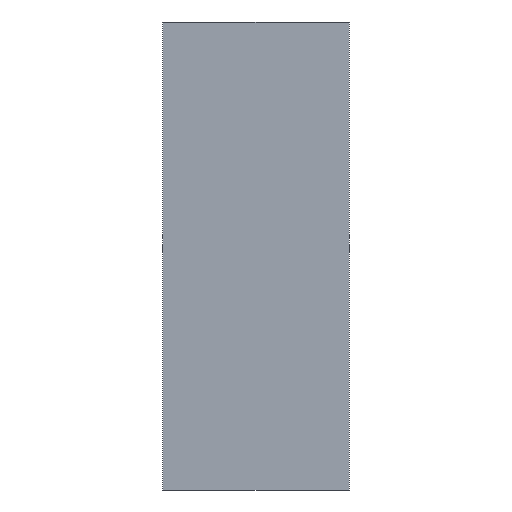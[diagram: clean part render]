
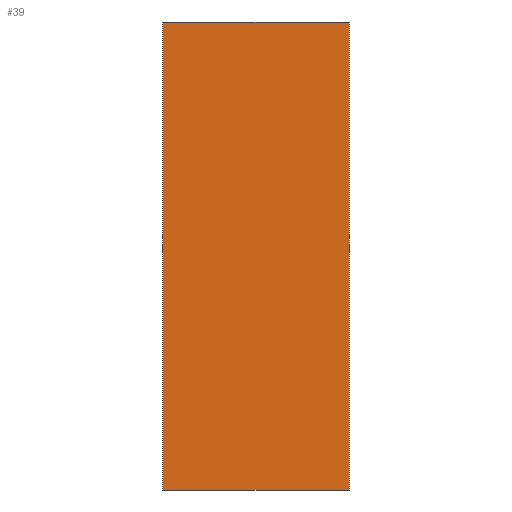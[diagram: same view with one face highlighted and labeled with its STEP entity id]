
A CAD part, left-side view. The second image highlights one B-rep face of the part: STEP entity #39.
In plain terms, the highlighted planar face has unit normal (-1, 0, 0).
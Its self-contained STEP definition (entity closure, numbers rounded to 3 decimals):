
#39 = ADVANCED_FACE('',(#40),#54,.F.);
#40 = FACE_BOUND('',#41,.F.);
#41 = EDGE_LOOP('',(#42,#77,#105,#133));
#42 = ORIENTED_EDGE('',*,*,#43,.F.);
#43 = EDGE_CURVE('',#44,#46,#48,.T.);
#44 = VERTEX_POINT('',#45);
#45 = CARTESIAN_POINT('',(-17.5,-17.5,-44.));
#46 = VERTEX_POINT('',#47);
#47 = CARTESIAN_POINT('',(-17.5,-17.5,44.));
#48 = SURFACE_CURVE('',#49,(#53,#65),.PCURVE_S1.);
#49 = LINE('',#50,#51);
#50 = CARTESIAN_POINT('',(-17.5,-17.5,-44.));
#51 = VECTOR('',#52,1.);
#52 = DIRECTION('',(0.,0.,1.));
#53 = PCURVE('',#54,#59);
#54 = PLANE('',#55);
#55 = AXIS2_PLACEMENT_3D('',#56,#57,#58);
#56 = CARTESIAN_POINT('',(-17.5,-17.5,-44.));
#57 = DIRECTION('',(1.,0.,-0.));
#58 = DIRECTION('',(0.,0.,1.));
#59 = DEFINITIONAL_REPRESENTATION('',(#60),#64);
#60 = LINE('',#61,#62);
#61 = CARTESIAN_POINT('',(0.,0.));
#62 = VECTOR('',#63,1.);
#63 = DIRECTION('',(1.,0.));
#64 = ( GEOMETRIC_REPRESENTATION_CONTEXT(2) 
PARAMETRIC_REPRESENTATION_CONTEXT() REPRESENTATION_CONTEXT('2D SPACE',''
  ) );
#65 = PCURVE('',#66,#71);
#66 = PLANE('',#67);
#67 = AXIS2_PLACEMENT_3D('',#68,#69,#70);
#68 = CARTESIAN_POINT('',(-17.5,-17.5,-44.));
#69 = DIRECTION('',(-0.,1.,0.));
#70 = DIRECTION('',(0.,0.,1.));
#71 = DEFINITIONAL_REPRESENTATION('',(#72),#76);
#72 = LINE('',#73,#74);
#73 = CARTESIAN_POINT('',(0.,0.));
#74 = VECTOR('',#75,1.);
#75 = DIRECTION('',(1.,0.));
#76 = ( GEOMETRIC_REPRESENTATION_CONTEXT(2) 
PARAMETRIC_REPRESENTATION_CONTEXT() REPRESENTATION_CONTEXT('2D SPACE',''
  ) );
#77 = ORIENTED_EDGE('',*,*,#78,.T.);
#78 = EDGE_CURVE('',#44,#79,#81,.T.);
#79 = VERTEX_POINT('',#80);
#80 = CARTESIAN_POINT('',(-17.5,17.5,-44.));
#81 = SURFACE_CURVE('',#82,(#86,#93),.PCURVE_S1.);
#82 = LINE('',#83,#84);
#83 = CARTESIAN_POINT('',(-17.5,-17.5,-44.));
#84 = VECTOR('',#85,1.);
#85 = DIRECTION('',(-0.,1.,0.));
#86 = PCURVE('',#54,#87);
#87 = DEFINITIONAL_REPRESENTATION('',(#88),#92);
#88 = LINE('',#89,#90);
#89 = CARTESIAN_POINT('',(0.,0.));
#90 = VECTOR('',#91,1.);
#91 = DIRECTION('',(0.,-1.));
#92 = ( GEOMETRIC_REPRESENTATION_CONTEXT(2) 
PARAMETRIC_REPRESENTATION_CONTEXT() REPRESENTATION_CONTEXT('2D SPACE',''
  ) );
#93 = PCURVE('',#94,#99);
#94 = PLANE('',#95);
#95 = AXIS2_PLACEMENT_3D('',#96,#97,#98);
#96 = CARTESIAN_POINT('',(-17.5,-17.5,-44.));
#97 = DIRECTION('',(0.,0.,1.));
#98 = DIRECTION('',(1.,0.,-0.));
#99 = DEFINITIONAL_REPRESENTATION('',(#100),#104);
#100 = LINE('',#101,#102);
#101 = CARTESIAN_POINT('',(0.,0.));
#102 = VECTOR('',#103,1.);
#103 = DIRECTION('',(0.,1.));
#104 = ( GEOMETRIC_REPRESENTATION_CONTEXT(2) 
PARAMETRIC_REPRESENTATION_CONTEXT() REPRESENTATION_CONTEXT('2D SPACE',''
  ) );
#105 = ORIENTED_EDGE('',*,*,#106,.T.);
#106 = EDGE_CURVE('',#79,#107,#109,.T.);
#107 = VERTEX_POINT('',#108);
#108 = CARTESIAN_POINT('',(-17.5,17.5,44.));
#109 = SURFACE_CURVE('',#110,(#114,#121),.PCURVE_S1.);
#110 = LINE('',#111,#112);
#111 = CARTESIAN_POINT('',(-17.5,17.5,-44.));
#112 = VECTOR('',#113,1.);
#113 = DIRECTION('',(0.,0.,1.));
#114 = PCURVE('',#54,#115);
#115 = DEFINITIONAL_REPRESENTATION('',(#116),#120);
#116 = LINE('',#117,#118);
#117 = CARTESIAN_POINT('',(0.,-35.));
#118 = VECTOR('',#119,1.);
#119 = DIRECTION('',(1.,0.));
#120 = ( GEOMETRIC_REPRESENTATION_CONTEXT(2) 
PARAMETRIC_REPRESENTATION_CONTEXT() REPRESENTATION_CONTEXT('2D SPACE',''
  ) );
#121 = PCURVE('',#122,#127);
#122 = PLANE('',#123);
#123 = AXIS2_PLACEMENT_3D('',#124,#125,#126);
#124 = CARTESIAN_POINT('',(-17.5,17.5,-44.));
#125 = DIRECTION('',(-0.,1.,0.));
#126 = DIRECTION('',(0.,0.,1.));
#127 = DEFINITIONAL_REPRESENTATION('',(#128),#132);
#128 = LINE('',#129,#130);
#129 = CARTESIAN_POINT('',(0.,0.));
#130 = VECTOR('',#131,1.);
#131 = DIRECTION('',(1.,0.));
#132 = ( GEOMETRIC_REPRESENTATION_CONTEXT(2) 
PARAMETRIC_REPRESENTATION_CONTEXT() REPRESENTATION_CONTEXT('2D SPACE',''
  ) );
#133 = ORIENTED_EDGE('',*,*,#134,.F.);
#134 = EDGE_CURVE('',#46,#107,#135,.T.);
#135 = SURFACE_CURVE('',#136,(#140,#147),.PCURVE_S1.);
#136 = LINE('',#137,#138);
#137 = CARTESIAN_POINT('',(-17.5,-17.5,44.));
#138 = VECTOR('',#139,1.);
#139 = DIRECTION('',(-0.,1.,0.));
#140 = PCURVE('',#54,#141);
#141 = DEFINITIONAL_REPRESENTATION('',(#142),#146);
#142 = LINE('',#143,#144);
#143 = CARTESIAN_POINT('',(88.,0.));
#144 = VECTOR('',#145,1.);
#145 = DIRECTION('',(0.,-1.));
#146 = ( GEOMETRIC_REPRESENTATION_CONTEXT(2) 
PARAMETRIC_REPRESENTATION_CONTEXT() REPRESENTATION_CONTEXT('2D SPACE',''
  ) );
#147 = PCURVE('',#148,#153);
#148 = PLANE('',#149);
#149 = AXIS2_PLACEMENT_3D('',#150,#151,#152);
#150 = CARTESIAN_POINT('',(-17.5,-17.5,44.));
#151 = DIRECTION('',(0.,0.,1.));
#152 = DIRECTION('',(1.,0.,-0.));
#153 = DEFINITIONAL_REPRESENTATION('',(#154),#158);
#154 = LINE('',#155,#156);
#155 = CARTESIAN_POINT('',(0.,0.));
#156 = VECTOR('',#157,1.);
#157 = DIRECTION('',(0.,1.));
#158 = ( GEOMETRIC_REPRESENTATION_CONTEXT(2) 
PARAMETRIC_REPRESENTATION_CONTEXT() REPRESENTATION_CONTEXT('2D SPACE',''
  ) );
